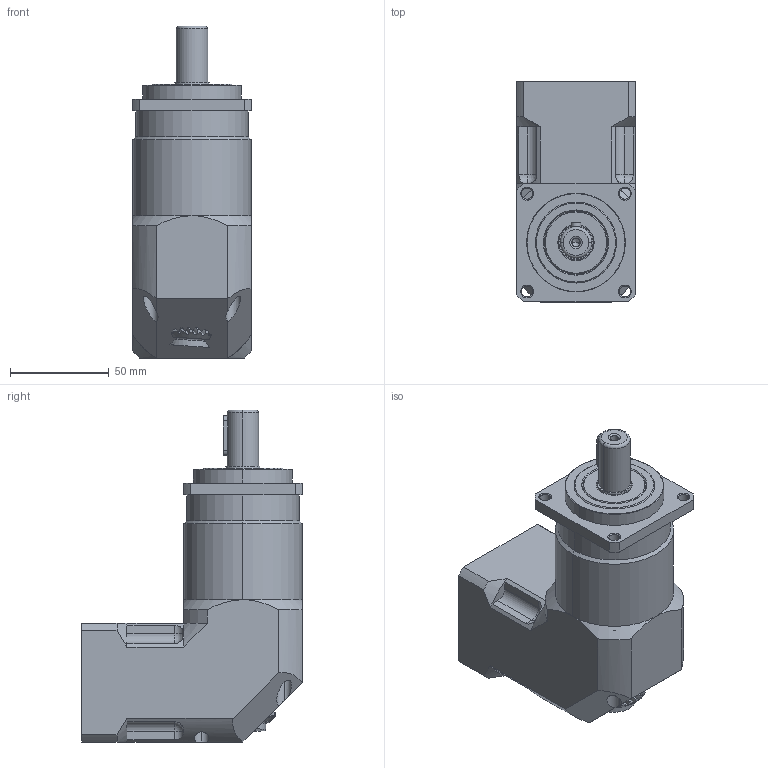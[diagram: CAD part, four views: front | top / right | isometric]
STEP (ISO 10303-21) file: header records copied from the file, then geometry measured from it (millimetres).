
FILE_DESCRIPTION (( 'STEP AP203' ), '1' );
FILE_NAME ('TVBR-060-L2-14-50-70-M5.STEP', '2023-12-19T02:10:51', ( '' ), ( '' ), 'SwSTEP 2.0', 'SolidWorks 2016', '' );
FILE_SCHEMA (( 'CONFIG_CONTROL_DESIGN' ));
Length unit declared in the file: millimetre
Products named in the file (1): TVBR-060-L2-14-50-70-M5
Bounding box: 60 x 111.5 x 168 mm (x, y, z)
Volume: 499469.8 mm3; surface area: 103043.6 mm2
Topology: 5 solids, 36 shells, 816 faces, 1926 edges, 1173 vertices
Faces by surface type: plane 315, cylinder 305, cone 159, torus 25, bspline 12
Entity records: 28072 total; most frequent: CARTESIAN_POINT 9354, DIRECTION 4056, ORIENTED_EDGE 3716, EDGE_CURVE 1858, AXIS2_PLACEMENT_3D 1592, VERTEX_POINT 1173, EDGE_LOOP 917, VECTOR 872
